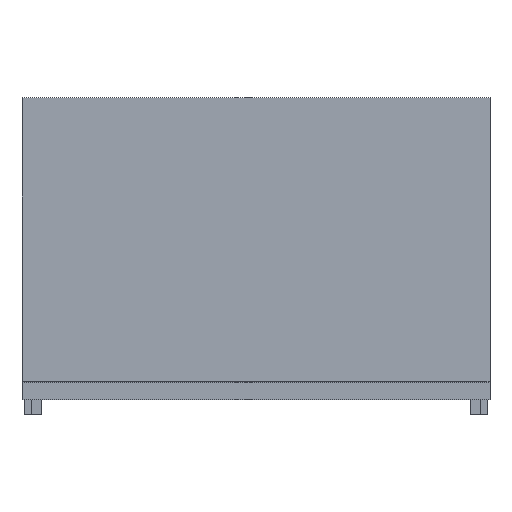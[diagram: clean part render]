
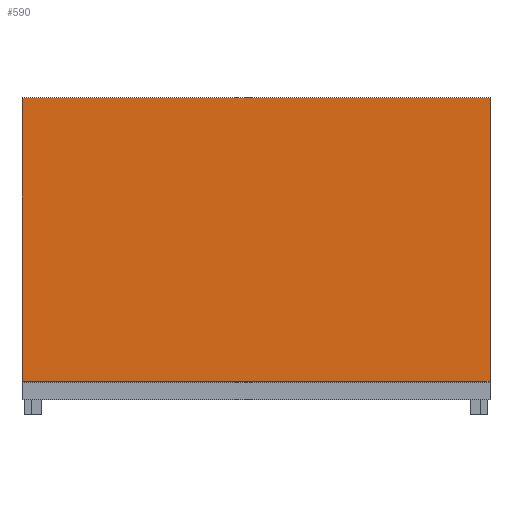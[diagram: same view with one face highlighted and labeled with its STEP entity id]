
A CAD part, top view. The second image highlights one B-rep face of the part: STEP entity #590.
In plain terms, the highlighted planar face has unit normal (0, 0, 1).
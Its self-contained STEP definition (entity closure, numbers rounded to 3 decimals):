
#590=ADVANCED_FACE('',(#4774),#4776,.T.);
#4774=FACE_BOUND('',#4775,.T.);
#4775=EDGE_LOOP('',(#8457,#8458,#8459,#8460));
#4776=PLANE('',#4777);
#4777=AXIS2_PLACEMENT_3D('',#4778,#4779,#4780);
#4778=CARTESIAN_POINT('',(0.,50.25,141.3));
#4779=DIRECTION('',(0.,0.,1.));
#4780=DIRECTION('',(1.,0.,0.));
#8457=ORIENTED_EDGE('',*,*,#10240,.T.);
#8458=ORIENTED_EDGE('',*,*,#10263,.F.);
#8459=ORIENTED_EDGE('',*,*,#10261,.F.);
#8460=ORIENTED_EDGE('',*,*,#10259,.F.);
#10240=EDGE_CURVE('',#12945,#12943,#12946,.T.);
#10259=EDGE_CURVE('',#12945,#12973,#12974,.F.);
#10261=EDGE_CURVE('',#12973,#12976,#12977,.F.);
#10263=EDGE_CURVE('',#12976,#12943,#12979,.F.);
#12943=VERTEX_POINT('',#19422);
#12945=VERTEX_POINT('',#19426);
#12946=LINE('',#19427,#19428);
#12973=VERTEX_POINT('',#19492);
#12974=LINE('',#19493,#19494);
#12976=VERTEX_POINT('',#19499);
#12977=LINE('',#19500,#19501);
#12979=LINE('',#19506,#19507);
#19422=CARTESIAN_POINT('',(597.8,-311.5,141.3));
#19426=CARTESIAN_POINT('',(-597.8,-311.5,141.3));
#19427=CARTESIAN_POINT('',(-597.8,-311.5,141.3));
#19428=VECTOR('',#19429,1.);
#19429=DIRECTION('',(1.,0.,0.));
#19492=CARTESIAN_POINT('',(-597.8,413.3,141.3));
#19493=CARTESIAN_POINT('',(-597.8,413.3,141.3));
#19494=VECTOR('',#19495,1.);
#19495=DIRECTION('',(0.,-1.,0.));
#19499=CARTESIAN_POINT('',(597.8,413.3,141.3));
#19500=CARTESIAN_POINT('',(597.8,413.3,141.3));
#19501=VECTOR('',#19502,1.);
#19502=DIRECTION('',(-1.,0.,0.));
#19506=CARTESIAN_POINT('',(597.8,-311.5,141.3));
#19507=VECTOR('',#19508,1.);
#19508=DIRECTION('',(0.,1.,0.));
